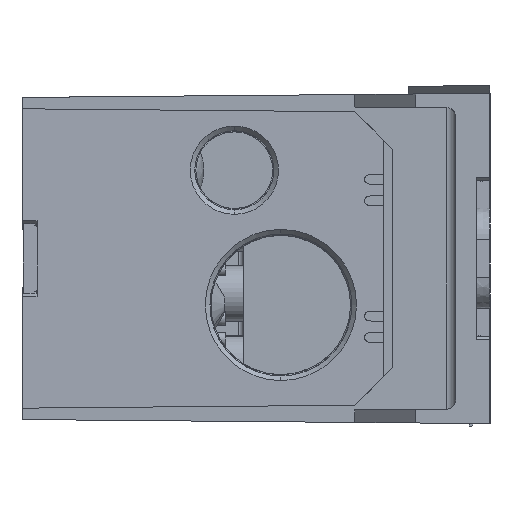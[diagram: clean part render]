
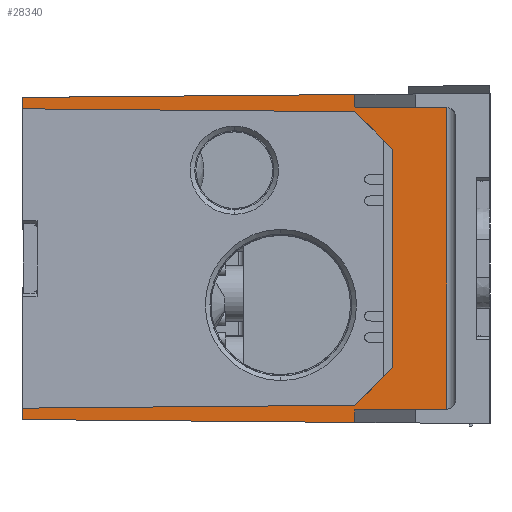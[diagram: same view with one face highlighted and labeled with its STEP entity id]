
A CAD part, left-side view. The second image highlights one B-rep face of the part: STEP entity #28340.
In plain terms, the highlighted planar face has unit normal (-1, 0.009, 0).
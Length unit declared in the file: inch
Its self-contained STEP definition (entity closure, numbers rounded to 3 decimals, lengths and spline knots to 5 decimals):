
#8456 = ORIENTED_EDGE ( 'NONE', *, *, #59518, .F. ) ;
#8459 = ORIENTED_EDGE ( 'NONE', *, *, #19311, .T. ) ;
#8462 = ORIENTED_EDGE ( 'NONE', *, *, #19312, .F. ) ;
#8465 = ORIENTED_EDGE ( 'NONE', *, *, #19314, .T. ) ;
#8468 = ORIENTED_EDGE ( 'NONE', *, *, #19315, .T. ) ;
#8471 = ORIENTED_EDGE ( 'NONE', *, *, #19316, .T. ) ;
#8473 = ORIENTED_EDGE ( 'NONE', *, *, #57617, .F. ) ;
#8476 = ORIENTED_EDGE ( 'NONE', *, *, #19307, .T. ) ;
#8479 = ORIENTED_EDGE ( 'NONE', *, *, #19160, .T. ) ;
#8482 = ORIENTED_EDGE ( 'NONE', *, *, #19318, .T. ) ;
#8485 = ORIENTED_EDGE ( 'NONE', *, *, #19154, .T. ) ;
#8488 = ORIENTED_EDGE ( 'NONE', *, *, #19319, .T. ) ;
#8491 = ORIENTED_EDGE ( 'NONE', *, *, #19148, .T. ) ;
#8493 = ORIENTED_EDGE ( 'NONE', *, *, #19287, .T. ) ;
#10498 = VERTEX_POINT ( 'NONE', #81269 ) ;
#10499 = VERTEX_POINT ( 'NONE', #81270 ) ;
#19148 = EDGE_CURVE ( 'NONE', #49527, #49533, #36159, .T. ) ;
#19154 = EDGE_CURVE ( 'NONE', #49537, #49355, #36201, .T. ) ;
#19160 = EDGE_CURVE ( 'NONE', #49545, #49531, #36226, .T. ) ;
#19287 = EDGE_CURVE ( 'NONE', #49533, #10499, #36797, .T. ) ;
#19307 = EDGE_CURVE ( 'NONE', #20091, #49545, #36935, .T. ) ;
#19311 = EDGE_CURVE ( 'NONE', #10498, #37525, #36956, .T. ) ;
#19312 = EDGE_CURVE ( 'NONE', #37529, #37525, #36963, .T. ) ;
#19314 = EDGE_CURVE ( 'NONE', #37529, #37538, #36916, .T. ) ;
#19315 = EDGE_CURVE ( 'NONE', #37538, #37539, #36977, .T. ) ;
#19316 = EDGE_CURVE ( 'NONE', #37539, #20105, #36984, .T. ) ;
#19318 = EDGE_CURVE ( 'NONE', #49531, #49537, #36991, .T. ) ;
#19319 = EDGE_CURVE ( 'NONE', #49355, #49527, #36998, .T. ) ;
#20091 = VERTEX_POINT ( 'NONE', #47162 ) ;
#20105 = VERTEX_POINT ( 'NONE', #47176 ) ;
#28340 = ADVANCED_FACE ( 'NONE', ( #70015 ), #70016, .F. ) ;
#30716 = VECTOR ( 'NONE', #36165, 39.37008 ) ;
#30722 = VECTOR ( 'NONE', #36206, 39.37008 ) ;
#30727 = VECTOR ( 'NONE', #36248, 39.37008 ) ;
#30792 = VECTOR ( 'NONE', #36828, 39.37008 ) ;
#30809 = VECTOR ( 'NONE', #36940, 39.37008 ) ;
#30811 = VECTOR ( 'NONE', #36975, 39.37008 ) ;
#30812 = VECTOR ( 'NONE', #36961, 39.37008 ) ;
#30813 = VECTOR ( 'NONE', #36969, 39.37008 ) ;
#30815 = VECTOR ( 'NONE', #36982, 39.37008 ) ;
#30816 = VECTOR ( 'NONE', #36989, 39.37008 ) ;
#30817 = VECTOR ( 'NONE', #36996, 39.37008 ) ;
#30818 = VECTOR ( 'NONE', #37003, 39.37008 ) ;
#36159 = LINE ( 'NONE', #36163, #30716 ) ;
#36163 = CARTESIAN_POINT ( 'NONE',  ( -5.08295, 3.44116, -1.01681 ) ) ;
#36165 = DIRECTION ( 'NONE',  ( 0.009, 1., -0.009 ) ) ;
#36201 = LINE ( 'NONE', #36204, #30722 ) ;
#36204 = CARTESIAN_POINT ( 'NONE',  ( -5.10465, 0.95448, -1.15151 ) ) ;
#36206 = DIRECTION ( 'NONE',  ( 0., 0., -1. ) ) ;
#36226 = LINE ( 'NONE', #36244, #30727 ) ;
#36244 = CARTESIAN_POINT ( 'NONE',  ( -5.08312, 3.42126, 0.99442 ) ) ;
#36248 = DIRECTION ( 'NONE',  ( -0.009, -1., -0.009 ) ) ;
#36797 = LINE ( 'NONE', #36824, #30792 ) ;
#36824 = CARTESIAN_POINT ( 'NONE',  ( -5.08296, 3.43998, 1.09239 ) ) ;
#36828 = DIRECTION ( 'NONE',  ( 0., 0., -1. ) ) ;
#36916 = LINE ( 'NONE', #36971, #30811 ) ;
#36935 = LINE ( 'NONE', #36938, #30809 ) ;
#36938 = CARTESIAN_POINT ( 'NONE',  ( -5.08296, 3.43998, 1.09239 ) ) ;
#36940 = DIRECTION ( 'NONE',  ( 0., 0., -1. ) ) ;
#36956 = LINE ( 'NONE', #36959, #30812 ) ;
#36959 = CARTESIAN_POINT ( 'NONE',  ( -5.10244, 1.2082, -1.17115 ) ) ;
#36961 = DIRECTION ( 'NONE',  ( 0., -0.009, 1. ) ) ;
#36963 = LINE ( 'NONE', #36967, #30813 ) ;
#36967 = CARTESIAN_POINT ( 'NONE',  ( -5.10465, 0.95448, -1.02671 ) ) ;
#36969 = DIRECTION ( 'NONE',  ( 0.009, 1., -0.009 ) ) ;
#36971 = CARTESIAN_POINT ( 'NONE',  ( -5.10783, 0.58994, 1.00078 ) ) ;
#36975 = DIRECTION ( 'NONE',  ( 0., 0., 1. ) ) ;
#36977 = LINE ( 'NONE', #36980, #30815 ) ;
#36980 = CARTESIAN_POINT ( 'NONE',  ( -5.10465, 0.95448, 1.00449 ) ) ;
#36982 = DIRECTION ( 'NONE',  ( 0.009, 1., 0.009 ) ) ;
#36984 = LINE ( 'NONE', #36987, #30816 ) ;
#36987 = CARTESIAN_POINT ( 'NONE',  ( -5.10261, 1.18813, -1.13168 ) ) ;
#36989 = DIRECTION ( 'NONE',  ( 0., 0.009, 1. ) ) ;
#36991 = LINE ( 'NONE', #36994, #30817 ) ;
#36994 = CARTESIAN_POINT ( 'NONE',  ( -5.10466, 0.95293, 0.72134 ) ) ;
#36996 = DIRECTION ( 'NONE',  ( -0.006, -0.707, -0.707 ) ) ;
#36998 = LINE ( 'NONE', #37001, #30818 ) ;
#37001 = CARTESIAN_POINT ( 'NONE',  ( -5.10466, 0.95293, -0.74355 ) ) ;
#37003 = DIRECTION ( 'NONE',  ( 0.006, 0.707, -0.707 ) ) ;
#37525 = VERTEX_POINT ( 'NONE', #92238 ) ;
#37529 = VERTEX_POINT ( 'NONE', #92243 ) ;
#37538 = VERTEX_POINT ( 'NONE', #92252 ) ;
#37539 = VERTEX_POINT ( 'NONE', #92253 ) ;
#47162 = CARTESIAN_POINT ( 'NONE',  ( -5.08296, 3.43998, 1.07112 ) ) ;
#47176 = CARTESIAN_POINT ( 'NONE',  ( -5.10244, 1.20769, 1.0906 ) ) ;
#49355 = VERTEX_POINT ( 'NONE', #104172 ) ;
#49527 = VERTEX_POINT ( 'NONE', #104355 ) ;
#49531 = VERTEX_POINT ( 'NONE', #104359 ) ;
#49533 = VERTEX_POINT ( 'NONE', #104361 ) ;
#49537 = VERTEX_POINT ( 'NONE', #104367 ) ;
#49545 = VERTEX_POINT ( 'NONE', #104378 ) ;
#57617 = EDGE_CURVE ( 'NONE', #20091, #20105, #99371, .T. ) ;
#59222 = EDGE_LOOP ( 'NONE', ( #8456, #8459, #8462, #8465, #8468, #8471, #8473, #8476, #8479, #8482, #8485, #8488, #8491, #8493 ) ) ;
#59518 = EDGE_CURVE ( 'NONE', #10498, #10499, #100052, .T. ) ;
#68951 = AXIS2_PLACEMENT_3D ( 'NONE', #70043, #70044, #70045 ) ;
#70015 = FACE_OUTER_BOUND ( 'NONE', #59222, .T. ) ;
#70016 = PLANE ( 'NONE',  #68951 ) ;
#70043 = CARTESIAN_POINT ( 'NONE',  ( -5.08296, 3.43998, -1.15151 ) ) ;
#70044 = DIRECTION ( 'NONE',  ( 1., -0.009, 0. ) ) ;
#70045 = DIRECTION ( 'NONE',  ( 0.009, 1., 0. ) ) ;
#81269 = CARTESIAN_POINT ( 'NONE',  ( -5.10244, 1.20769, -1.11282 ) ) ;
#81270 = CARTESIAN_POINT ( 'NONE',  ( -5.08296, 3.43998, -1.09333 ) ) ;
#92238 = CARTESIAN_POINT ( 'NONE',  ( -5.10245, 1.20695, -1.02891 ) ) ;
#92243 = CARTESIAN_POINT ( 'NONE',  ( -5.10783, 0.58994, -1.02352 ) ) ;
#92252 = CARTESIAN_POINT ( 'NONE',  ( -5.10783, 0.58994, 1.00131 ) ) ;
#92253 = CARTESIAN_POINT ( 'NONE',  ( -5.10245, 1.20695, 1.0067 ) ) ;
#99371 = LINE ( 'NONE', #99373, #100631 ) ;
#99373 = CARTESIAN_POINT ( 'NONE',  ( -5.10389, 1.04115, 1.09206 ) ) ;
#99375 = DIRECTION ( 'NONE',  ( -0.009, -1., 0.009 ) ) ;
#100052 = LINE ( 'NONE', #100054, #100846 ) ;
#100054 = CARTESIAN_POINT ( 'NONE',  ( -5.10389, 1.04115, -1.11427 ) ) ;
#100056 = DIRECTION ( 'NONE',  ( 0.009, 1., 0.009 ) ) ;
#100631 = VECTOR ( 'NONE', #99375, 39.37008 ) ;
#100846 = VECTOR ( 'NONE', #100056, 39.37008 ) ;
#104172 = CARTESIAN_POINT ( 'NONE',  ( -5.10465, 0.95448, -0.74511 ) ) ;
#104355 = CARTESIAN_POINT ( 'NONE',  ( -5.10245, 1.20668, -0.99731 ) ) ;
#104359 = CARTESIAN_POINT ( 'NONE',  ( -5.10245, 1.20668, 0.97509 ) ) ;
#104361 = CARTESIAN_POINT ( 'NONE',  ( -5.08296, 3.43998, -1.0168 ) ) ;
#104367 = CARTESIAN_POINT ( 'NONE',  ( -5.10465, 0.95448, 0.72289 ) ) ;
#104378 = CARTESIAN_POINT ( 'NONE',  ( -5.08296, 3.43998, 0.99458 ) ) ;
